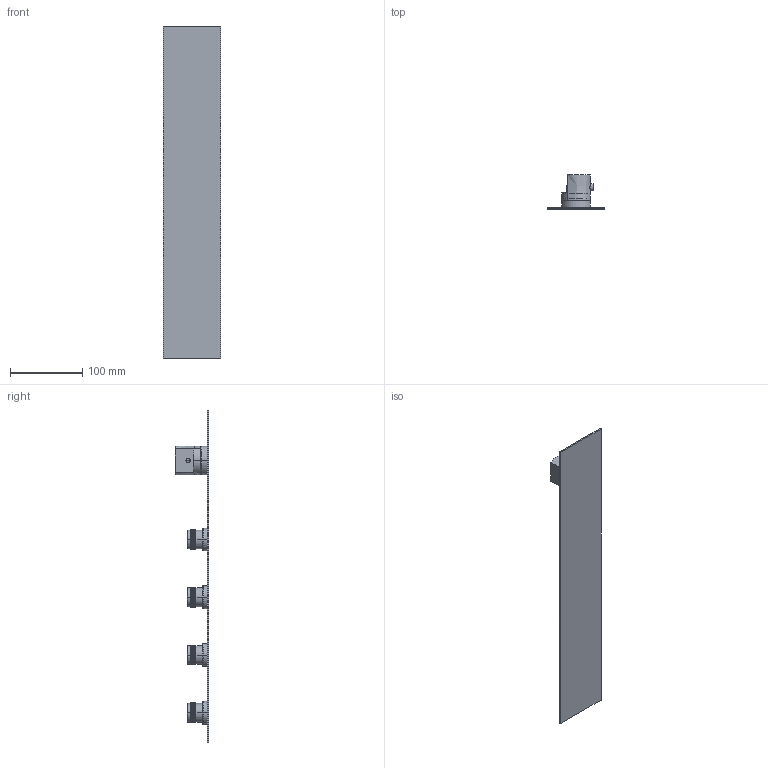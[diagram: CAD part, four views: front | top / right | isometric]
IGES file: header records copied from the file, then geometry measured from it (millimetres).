
Start section:  PTC IGES file: 89600v4.igs
Global section: file name: 89600v4.igs; native system: Creo Parametric by PTC Inc.; preprocessor: 2022014; author: carloff; organization: Unknown; date: 20251124.171315; units: millimetre
Bounding box: 80 x 46.6 x 460 mm (x, y, z)
Surface area: 98874.7 mm2 (no closed solid volume)
Topology: 0 solids, 0 shells, 6650 faces, 33094 edges, 33082 vertices
Faces by surface type: bspline 5169, revolution 1481
